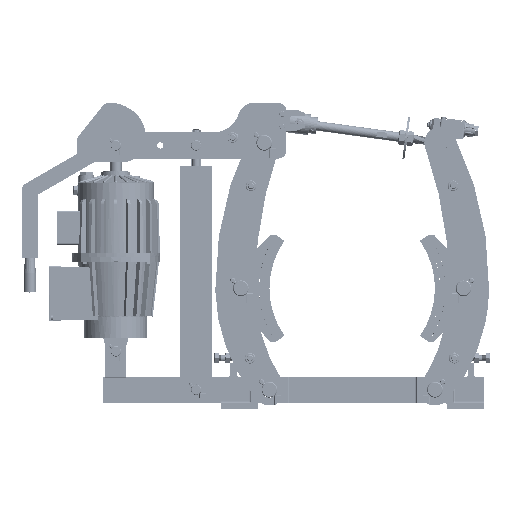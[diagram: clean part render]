
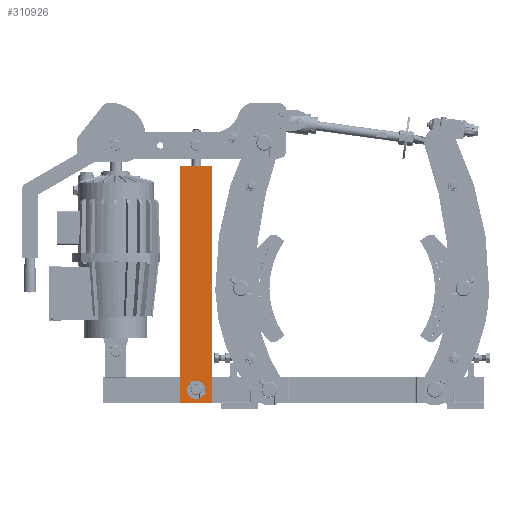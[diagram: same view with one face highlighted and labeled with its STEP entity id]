
A CAD part, left-side view. The second image highlights one B-rep face of the part: STEP entity #310926.
In plain terms, the highlighted planar face has unit normal (-1, 0, 0).
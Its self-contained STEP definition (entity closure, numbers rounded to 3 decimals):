
#310769=DIRECTION('',(0.,-1.,0.));
#310770=VECTOR('',#310769,60.);
#310771=CARTESIAN_POINT('',(-90.,577.,462.));
#310772=LINE('',#310771,#310770);
#310776=DIRECTION('',(0.,0.,-1.));
#310777=VECTOR('',#310776,450.);
#310778=CARTESIAN_POINT('',(-90.,517.,462.));
#310779=LINE('',#310778,#310777);
#310783=DIRECTION('',(0.,1.,0.));
#310784=VECTOR('',#310783,60.);
#310785=CARTESIAN_POINT('',(-90.,517.,12.));
#310786=LINE('',#310785,#310784);
#310790=DIRECTION('',(0.,0.,1.));
#310791=VECTOR('',#310790,450.);
#310792=CARTESIAN_POINT('',(-90.,577.,12.));
#310793=LINE('',#310792,#310791);
#310797=CARTESIAN_POINT('',(-90.,537.,37.));
#310798=CARTESIAN_POINT('',(-90.,537.,37.328));
#310799=CARTESIAN_POINT('',(-90.,537.032,37.982));
#310800=CARTESIAN_POINT('',(-90.,537.176,38.955));
#310801=CARTESIAN_POINT('',(-90.,537.415,39.908));
#310802=CARTESIAN_POINT('',(-90.,537.746,40.832));
#310803=CARTESIAN_POINT('',(-90.,538.167,41.723));
#310804=CARTESIAN_POINT('',(-90.,538.674,42.568));
#310805=CARTESIAN_POINT('',(-90.,539.261,43.358));
#310806=CARTESIAN_POINT('',(-90.,539.922,44.086));
#310807=CARTESIAN_POINT('',(-90.,540.65,44.746));
#310808=CARTESIAN_POINT('',(-90.,541.439,45.331));
#310809=CARTESIAN_POINT('',(-90.,542.282,45.835));
#310810=CARTESIAN_POINT('',(-90.,543.171,46.255));
#310811=CARTESIAN_POINT('',(-90.,544.093,46.585));
#310812=CARTESIAN_POINT('',(-90.,545.045,46.823));
#310813=CARTESIAN_POINT('',(-90.,546.017,46.968));
#310814=CARTESIAN_POINT('',(-90.,546.671,47.));
#310815=CARTESIAN_POINT('',(-90.,547.,47.));
#310820=CARTESIAN_POINT('',(-90.,547.,47.));
#310821=CARTESIAN_POINT('',(-90.,547.328,47.));
#310822=CARTESIAN_POINT('',(-90.,547.982,46.968));
#310823=CARTESIAN_POINT('',(-90.,548.955,46.824));
#310824=CARTESIAN_POINT('',(-90.,549.908,46.585));
#310825=CARTESIAN_POINT('',(-90.,550.832,46.254));
#310826=CARTESIAN_POINT('',(-90.,551.723,45.833));
#310827=CARTESIAN_POINT('',(-90.,552.568,45.326));
#310828=CARTESIAN_POINT('',(-90.,553.358,44.739));
#310829=CARTESIAN_POINT('',(-90.,554.086,44.078));
#310830=CARTESIAN_POINT('',(-90.,554.746,43.35));
#310831=CARTESIAN_POINT('',(-90.,555.331,42.561));
#310832=CARTESIAN_POINT('',(-90.,555.835,41.718));
#310833=CARTESIAN_POINT('',(-90.,556.255,40.829));
#310834=CARTESIAN_POINT('',(-90.,556.585,39.907));
#310835=CARTESIAN_POINT('',(-90.,556.823,38.955));
#310836=CARTESIAN_POINT('',(-90.,556.968,37.983));
#310837=CARTESIAN_POINT('',(-90.,557.,37.329));
#310838=CARTESIAN_POINT('',(-90.,557.,37.));
#310843=CARTESIAN_POINT('',(-90.,557.,37.));
#310844=CARTESIAN_POINT('',(-90.,557.,36.672));
#310845=CARTESIAN_POINT('',(-90.,556.968,36.018));
#310846=CARTESIAN_POINT('',(-90.,556.824,35.045));
#310847=CARTESIAN_POINT('',(-90.,556.585,34.092));
#310848=CARTESIAN_POINT('',(-90.,556.254,33.168));
#310849=CARTESIAN_POINT('',(-90.,555.833,32.277));
#310850=CARTESIAN_POINT('',(-90.,555.326,31.432));
#310851=CARTESIAN_POINT('',(-90.,554.739,30.642));
#310852=CARTESIAN_POINT('',(-90.,554.078,29.914));
#310853=CARTESIAN_POINT('',(-90.,553.35,29.254));
#310854=CARTESIAN_POINT('',(-90.,552.561,28.669));
#310855=CARTESIAN_POINT('',(-90.,551.718,28.165));
#310856=CARTESIAN_POINT('',(-90.,550.829,27.745));
#310857=CARTESIAN_POINT('',(-90.,549.907,27.415));
#310858=CARTESIAN_POINT('',(-90.,548.955,27.177));
#310859=CARTESIAN_POINT('',(-90.,547.983,27.032));
#310860=CARTESIAN_POINT('',(-90.,547.329,27.));
#310861=CARTESIAN_POINT('',(-90.,547.,27.));
#310866=CARTESIAN_POINT('',(-90.,547.,27.));
#310867=CARTESIAN_POINT('',(-90.,546.672,27.));
#310868=CARTESIAN_POINT('',(-90.,546.018,27.032));
#310869=CARTESIAN_POINT('',(-90.,545.045,27.176));
#310870=CARTESIAN_POINT('',(-90.,544.092,27.415));
#310871=CARTESIAN_POINT('',(-90.,543.168,27.746));
#310872=CARTESIAN_POINT('',(-90.,542.277,28.167));
#310873=CARTESIAN_POINT('',(-90.,541.432,28.674));
#310874=CARTESIAN_POINT('',(-90.,540.642,29.261));
#310875=CARTESIAN_POINT('',(-90.,539.914,29.922));
#310876=CARTESIAN_POINT('',(-90.,539.254,30.65));
#310877=CARTESIAN_POINT('',(-90.,538.669,31.439));
#310878=CARTESIAN_POINT('',(-90.,538.165,32.282));
#310879=CARTESIAN_POINT('',(-90.,537.745,33.171));
#310880=CARTESIAN_POINT('',(-90.,537.415,34.093));
#310881=CARTESIAN_POINT('',(-90.,537.177,35.045));
#310882=CARTESIAN_POINT('',(-90.,537.032,36.017));
#310883=CARTESIAN_POINT('',(-90.,537.,36.671));
#310884=CARTESIAN_POINT('',(-90.,537.,37.));
#310889=CARTESIAN_POINT('',(-90.,577.,462.));
#310890=CARTESIAN_POINT('',(-90.,517.,462.));
#310891=VERTEX_POINT('',#310889);
#310892=VERTEX_POINT('',#310890);
#310893=CARTESIAN_POINT('',(-90.,517.,12.));
#310894=VERTEX_POINT('',#310893);
#310895=CARTESIAN_POINT('',(-90.,577.,12.));
#310896=VERTEX_POINT('',#310895);
#310897=VERTEX_POINT('',#310797);
#310898=VERTEX_POINT('',#310815);
#310899=VERTEX_POINT('',#310838);
#310900=VERTEX_POINT('',#310861);
#310901=CARTESIAN_POINT('',(-90.,547.,237.));
#310902=DIRECTION('',(1.,0.,0.));
#310903=DIRECTION('',(0.,0.,1.));
#310904=AXIS2_PLACEMENT_3D('',#310901,#310902,#310903);
#310905=PLANE('',#310904);
#310907=ORIENTED_EDGE('',*,*,#310906,.T.);
#310909=ORIENTED_EDGE('',*,*,#310908,.T.);
#310911=ORIENTED_EDGE('',*,*,#310910,.T.);
#310913=ORIENTED_EDGE('',*,*,#310912,.T.);
#310914=EDGE_LOOP('',(#310907,#310909,#310911,#310913));
#310915=FACE_OUTER_BOUND('',#310914,.F.);
#310917=ORIENTED_EDGE('',*,*,#310916,.T.);
#310919=ORIENTED_EDGE('',*,*,#310918,.T.);
#310921=ORIENTED_EDGE('',*,*,#310920,.T.);
#310923=ORIENTED_EDGE('',*,*,#310922,.T.);
#310924=EDGE_LOOP('',(#310917,#310919,#310921,#310923));
#310925=FACE_BOUND('',#310924,.F.);
#310926=ADVANCED_FACE('',(#310915,#310925),#310905,.F.);
#310816=B_SPLINE_CURVE_WITH_KNOTS('',3,(#310797,#310798,#310799,#310800,#310801,
#310802,#310803,#310804,#310805,#310806,#310807,#310808,#310809,#310810,#310811,
#310812,#310813,#310814,#310815),.UNSPECIFIED.,.F.,.F.,(4,1,1,1,1,1,1,1,1,1,1,1,
1,1,1,1,4),(0.,0.063,0.125,0.188,0.25,0.313,0.375,0.438,
0.5,0.563,0.625,0.688,0.75,0.813,0.875,0.938,1.),
.UNSPECIFIED.);
#310839=B_SPLINE_CURVE_WITH_KNOTS('',3,(#310820,#310821,#310822,#310823,#310824,
#310825,#310826,#310827,#310828,#310829,#310830,#310831,#310832,#310833,#310834,
#310835,#310836,#310837,#310838),.UNSPECIFIED.,.F.,.F.,(4,1,1,1,1,1,1,1,1,1,1,1,
1,1,1,1,4),(0.,0.063,0.125,0.188,0.25,0.313,0.375,0.438,
0.5,0.563,0.625,0.688,0.75,0.813,0.875,0.938,1.),
.UNSPECIFIED.);
#310862=B_SPLINE_CURVE_WITH_KNOTS('',3,(#310843,#310844,#310845,#310846,#310847,
#310848,#310849,#310850,#310851,#310852,#310853,#310854,#310855,#310856,#310857,
#310858,#310859,#310860,#310861),.UNSPECIFIED.,.F.,.F.,(4,1,1,1,1,1,1,1,1,1,1,1,
1,1,1,1,4),(0.,0.063,0.125,0.188,0.25,0.313,0.375,0.438,
0.5,0.563,0.625,0.688,0.75,0.813,0.875,0.938,1.),
.UNSPECIFIED.);
#310885=B_SPLINE_CURVE_WITH_KNOTS('',3,(#310866,#310867,#310868,#310869,#310870,
#310871,#310872,#310873,#310874,#310875,#310876,#310877,#310878,#310879,#310880,
#310881,#310882,#310883,#310884),.UNSPECIFIED.,.F.,.F.,(4,1,1,1,1,1,1,1,1,1,1,1,
1,1,1,1,4),(0.,0.063,0.125,0.188,0.25,0.313,0.375,0.438,
0.5,0.563,0.625,0.688,0.75,0.813,0.875,0.938,1.),
.UNSPECIFIED.);
#310906=EDGE_CURVE('',#310891,#310892,#310772,.T.);
#310908=EDGE_CURVE('',#310892,#310894,#310779,.T.);
#310910=EDGE_CURVE('',#310894,#310896,#310786,.T.);
#310912=EDGE_CURVE('',#310896,#310891,#310793,.T.);
#310916=EDGE_CURVE('',#310897,#310898,#310816,.T.);
#310918=EDGE_CURVE('',#310898,#310899,#310839,.T.);
#310920=EDGE_CURVE('',#310899,#310900,#310862,.T.);
#310922=EDGE_CURVE('',#310900,#310897,#310885,.T.);
